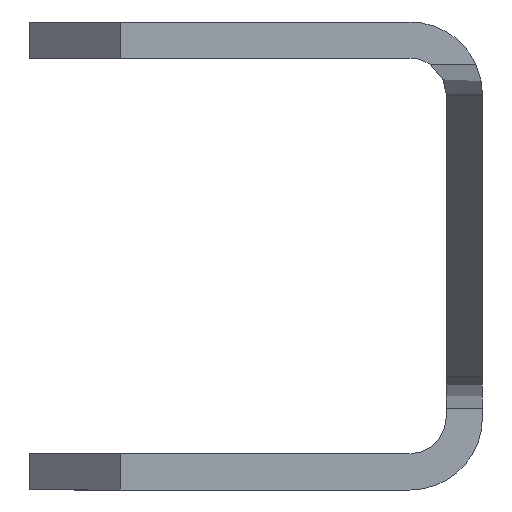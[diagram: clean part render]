
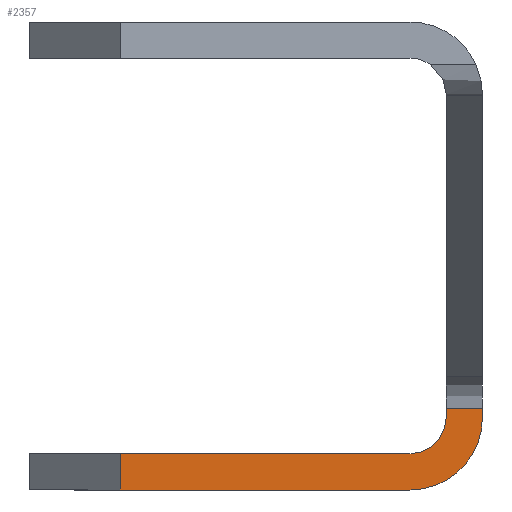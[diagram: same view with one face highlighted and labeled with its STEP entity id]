
A CAD part, left-side view. The second image highlights one B-rep face of the part: STEP entity #2357.
In plain terms, the highlighted planar face has unit normal (-1, 0, 0).
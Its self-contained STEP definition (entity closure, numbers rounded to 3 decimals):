
#28 = DIRECTION ( 'NONE',  ( 0., -1., 0. ) ) ;
#29 = CARTESIAN_POINT ( 'NONE',  ( -537.5, 7.5, -7.75 ) ) ;
#30 = LINE ( 'NONE', #29, #2015 ) ;
#273 = ORIENTED_EDGE ( 'NONE', *, *, #2178, .F. ) ;
#274 = ORIENTED_EDGE ( 'NONE', *, *, #2180, .T. ) ;
#276 = ORIENTED_EDGE ( 'NONE', *, *, #2171, .T. ) ;
#277 = ORIENTED_EDGE ( 'NONE', *, *, #2251, .T. ) ;
#278 = ORIENTED_EDGE ( 'NONE', *, *, #2257, .F. ) ;
#279 = ORIENTED_EDGE ( 'NONE', *, *, #2172, .T. ) ;
#280 = ORIENTED_EDGE ( 'NONE', *, *, #2244, .T. ) ;
#283 = ORIENTED_EDGE ( 'NONE', *, *, #2272, .T. ) ;
#702 = CARTESIAN_POINT ( 'NONE',  ( -537.5, -5.1, -7.75 ) ) ;
#703 = CARTESIAN_POINT ( 'NONE',  ( -537.5, 4.5, -7.75 ) ) ;
#712 = CARTESIAN_POINT ( 'NONE',  ( -537.5, -7.5, -5.046 ) ) ;
#713 = CARTESIAN_POINT ( 'NONE',  ( -537.5, -7.5, -5.35 ) ) ;
#720 = CARTESIAN_POINT ( 'NONE',  ( -537.5, 4.5, -6.55 ) ) ;
#721 = CARTESIAN_POINT ( 'NONE',  ( -537.5, -5.1, -6.55 ) ) ;
#741 = CARTESIAN_POINT ( 'NONE',  ( -537.5, -6.3, -5.35 ) ) ;
#742 = CARTESIAN_POINT ( 'NONE',  ( -537.5, -6.3, -5.046 ) ) ;
#1286 = DIRECTION ( 'NONE',  ( 0., 0., -1. ) ) ;
#1287 = DIRECTION ( 'NONE',  ( -1., 0., 0. ) ) ;
#1288 = CARTESIAN_POINT ( 'NONE',  ( -537.5, -5.1, -5.35 ) ) ;
#1745 = VECTOR ( 'NONE', #3576, 1000. ) ;
#1765 = AXIS2_PLACEMENT_3D ( 'NONE', #3585, #3584, #3583 ) ;
#1796 = VECTOR ( 'NONE', #3614, 1000. ) ;
#1799 = VECTOR ( 'NONE', #3617, 1000. ) ;
#1850 = AXIS2_PLACEMENT_3D ( 'NONE', #3194, #3193, #3192 ) ;
#1853 = FACE_OUTER_BOUND ( 'NONE', #3943, .T. ) ;
#2015 = VECTOR ( 'NONE', #28, 1000. ) ;
#2030 = VECTOR ( 'NONE', #4416, 1000. ) ;
#2040 = VECTOR ( 'NONE', #4324, 1000. ) ;
#2049 = AXIS2_PLACEMENT_3D ( 'NONE', #1288, #1287, #1286 ) ;
#2171 = EDGE_CURVE ( 'NONE', #3129, #3159, #3619, .T. ) ;
#2172 = EDGE_CURVE ( 'NONE', #3137, #3120, #3616, .T. ) ;
#2178 = EDGE_CURVE ( 'NONE', #3138, #3158, #3289, .T. ) ;
#2180 = EDGE_CURVE ( 'NONE', #3159, #3158, #3578, .T. ) ;
#2244 = EDGE_CURVE ( 'NONE', #3138, #3137, #4418, .T. ) ;
#2251 = EDGE_CURVE ( 'NONE', #3119, #3130, #4284, .T. ) ;
#2257 = EDGE_CURVE ( 'NONE', #3129, #3130, #4326, .T. ) ;
#2272 = EDGE_CURVE ( 'NONE', #3120, #3119, #30, .T. ) ;
#2357 = ADVANCED_FACE ( 'NONE', ( #1853 ), #3195, .F. ) ;
#3119 = VERTEX_POINT ( 'NONE', #702 ) ;
#3120 = VERTEX_POINT ( 'NONE', #703 ) ;
#3129 = VERTEX_POINT ( 'NONE', #712 ) ;
#3130 = VERTEX_POINT ( 'NONE', #713 ) ;
#3137 = VERTEX_POINT ( 'NONE', #720 ) ;
#3138 = VERTEX_POINT ( 'NONE', #721 ) ;
#3158 = VERTEX_POINT ( 'NONE', #741 ) ;
#3159 = VERTEX_POINT ( 'NONE', #742 ) ;
#3192 = DIRECTION ( 'NONE',  ( 0., 0., -1. ) ) ;
#3193 = DIRECTION ( 'NONE',  ( 1., 0., 0. ) ) ;
#3194 = CARTESIAN_POINT ( 'NONE',  ( -537.5, 7.5, -4.35 ) ) ;
#3195 = PLANE ( 'NONE',  #1850 ) ;
#3289 = CIRCLE ( 'NONE', #1765, 1.2 ) ;
#3576 = DIRECTION ( 'NONE',  ( 0., 0., -1. ) ) ;
#3577 = CARTESIAN_POINT ( 'NONE',  ( -537.5, -6.3, 7.75 ) ) ;
#3578 = LINE ( 'NONE', #3577, #1745 ) ;
#3583 = DIRECTION ( 'NONE',  ( 0., 0., -1. ) ) ;
#3584 = DIRECTION ( 'NONE',  ( -1., 0., 0. ) ) ;
#3585 = CARTESIAN_POINT ( 'NONE',  ( -537.5, -5.1, -5.35 ) ) ;
#3614 = DIRECTION ( 'NONE',  ( 0., 0., -1. ) ) ;
#3615 = CARTESIAN_POINT ( 'NONE',  ( -537.5, 4.5, -4.35 ) ) ;
#3616 = LINE ( 'NONE', #3615, #1796 ) ;
#3617 = DIRECTION ( 'NONE',  ( 0., 1., 0. ) ) ;
#3618 = CARTESIAN_POINT ( 'NONE',  ( -537.5, 7.5, -5.046 ) ) ;
#3619 = LINE ( 'NONE', #3618, #1799 ) ;
#3943 = EDGE_LOOP ( 'NONE', ( #280, #279, #283, #277, #278, #276, #274, #273 ) ) ;
#4284 = CIRCLE ( 'NONE', #2049, 2.4 ) ;
#4324 = DIRECTION ( 'NONE',  ( 0., 0., -1. ) ) ;
#4325 = CARTESIAN_POINT ( 'NONE',  ( -537.5, -7.5, -4.35 ) ) ;
#4326 = LINE ( 'NONE', #4325, #2040 ) ;
#4416 = DIRECTION ( 'NONE',  ( 0., 1., 0. ) ) ;
#4417 = CARTESIAN_POINT ( 'NONE',  ( -537.5, 7.5, -6.55 ) ) ;
#4418 = LINE ( 'NONE', #4417, #2030 ) ;
